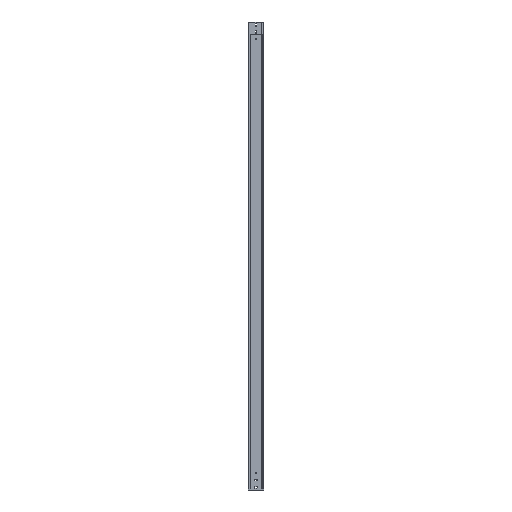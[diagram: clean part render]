
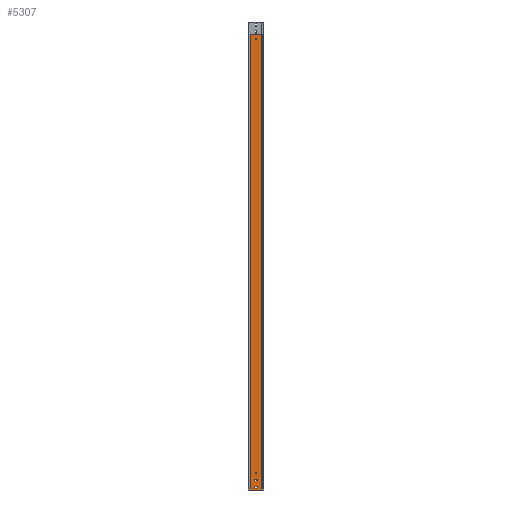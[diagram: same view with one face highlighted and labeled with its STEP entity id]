
A CAD part, left-side view. The second image highlights one B-rep face of the part: STEP entity #5307.
In plain terms, the highlighted planar face has unit normal (-1, 0, 0).
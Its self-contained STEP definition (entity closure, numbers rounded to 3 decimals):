
#45 = DIRECTION ( 'NONE',  ( 0., 0., 1. ) ) ;
#49 = VERTEX_POINT ( 'NONE', #101 ) ;
#81 = VERTEX_POINT ( 'NONE', #157 ) ;
#85 = VECTOR ( 'NONE', #3175, 1000. ) ;
#101 = CARTESIAN_POINT ( 'NONE',  ( 0., 0.5, 0. ) ) ;
#122 = CARTESIAN_POINT ( 'NONE',  ( 0., 48., 30. ) ) ;
#127 = VECTOR ( 'NONE', #3580, 1000. ) ;
#157 = CARTESIAN_POINT ( 'NONE',  ( 0., 53.5, 2852.5 ) ) ;
#178 = CARTESIAN_POINT ( 'NONE',  ( 0., 42.5, 2903. ) ) ;
#218 = CARTESIAN_POINT ( 'NONE',  ( 0., 48., 25.5 ) ) ;
#227 = CARTESIAN_POINT ( 'NONE',  ( 0., 0.5, 0. ) ) ;
#233 = AXIS2_PLACEMENT_3D ( 'NONE', #4039, #2201, #45 ) ;
#256 = CARTESIAN_POINT ( 'NONE',  ( 0., 48., 2814.5 ) ) ;
#263 = VECTOR ( 'NONE', #3428, 1000. ) ;
#265 = CARTESIAN_POINT ( 'NONE',  ( 0., 53.5, 2861.5 ) ) ;
#267 = EDGE_CURVE ( 'NONE', #3141, #1697, #4522, .T. ) ;
#285 = CARTESIAN_POINT ( 'NONE',  ( 0., 7.513, 0. ) ) ;
#302 = CARTESIAN_POINT ( 'NONE',  ( 0., 0., 2920. ) ) ;
#335 = LINE ( 'NONE', #4279, #1507 ) ;
#340 = CARTESIAN_POINT ( 'NONE',  ( 0., 21.54, 0. ) ) ;
#418 = DIRECTION ( 'NONE',  ( 0., 0., 1. ) ) ;
#448 = VECTOR ( 'NONE', #2274, 1000. ) ;
#458 = EDGE_LOOP ( 'NONE', ( #1151, #800 ) ) ;
#488 = ORIENTED_EDGE ( 'NONE', *, *, #4862, .F. ) ;
#498 = CARTESIAN_POINT ( 'NONE',  ( 0., 53.5, 2898.5 ) ) ;
#542 = DIRECTION ( 'NONE',  ( -1., 0., 0. ) ) ;
#572 = DIRECTION ( 'NONE',  ( -1., 0., 0. ) ) ;
#579 = FACE_BOUND ( 'NONE', #4247, .T. ) ;
#600 = CARTESIAN_POINT ( 'NONE',  ( 0., 48., 30. ) ) ;
#611 = AXIS2_PLACEMENT_3D ( 'NONE', #2147, #5320, #1704 ) ;
#693 = CARTESIAN_POINT ( 'NONE',  ( 0., 42.5, 2857. ) ) ;
#707 = DIRECTION ( 'NONE',  ( 0., 0., -1. ) ) ;
#711 = ORIENTED_EDGE ( 'NONE', *, *, #5667, .F. ) ;
#720 = ORIENTED_EDGE ( 'NONE', *, *, #3097, .F. ) ;
#771 = VERTEX_POINT ( 'NONE', #2163 ) ;
#780 = CARTESIAN_POINT ( 'NONE',  ( 0., 48., 2810. ) ) ;
#800 = ORIENTED_EDGE ( 'NONE', *, *, #3084, .F. ) ;
#810 = CARTESIAN_POINT ( 'NONE',  ( 0., 42.5, 2861.5 ) ) ;
#813 = CARTESIAN_POINT ( 'NONE',  ( 0., 0.5, 2920. ) ) ;
#861 = CARTESIAN_POINT ( 'NONE',  ( 0., 53.5, 2861.5 ) ) ;
#933 = VECTOR ( 'NONE', #3888, 1000. ) ;
#1024 = FACE_BOUND ( 'NONE', #5141, .T. ) ;
#1043 = EDGE_CURVE ( 'NONE', #1048, #81, #5086, .T. ) ;
#1048 = VERTEX_POINT ( 'NONE', #265 ) ;
#1058 = VERTEX_POINT ( 'NONE', #2886 ) ;
#1086 = CARTESIAN_POINT ( 'NONE',  ( 0., 42.5, 2898.5 ) ) ;
#1151 = ORIENTED_EDGE ( 'NONE', *, *, #2092, .F. ) ;
#1209 = ORIENTED_EDGE ( 'NONE', *, *, #2483, .T. ) ;
#1356 = CARTESIAN_POINT ( 'NONE',  ( 0., 53.5, 2907.5 ) ) ;
#1372 = CARTESIAN_POINT ( 'NONE',  ( 0., 84.666, 0. ) ) ;
#1444 = EDGE_CURVE ( 'NONE', #1522, #771, #1730, .T. ) ;
#1507 = VECTOR ( 'NONE', #3499, 1000. ) ;
#1522 = VERTEX_POINT ( 'NONE', #813 ) ;
#1570 = DIRECTION ( 'NONE',  ( -1., 0., 0. ) ) ;
#1592 = CARTESIAN_POINT ( 'NONE',  ( 0., 53.5, 2907.5 ) ) ;
#1640 = DIRECTION ( 'NONE',  ( 0., 1., 0. ) ) ;
#1697 = VERTEX_POINT ( 'NONE', #256 ) ;
#1704 = DIRECTION ( 'NONE',  ( 0., 0., -1. ) ) ;
#1730 = LINE ( 'NONE', #302, #5455 ) ;
#1752 = EDGE_CURVE ( 'NONE', #1522, #49, #335, .T. ) ;
#1763 = ORIENTED_EDGE ( 'NONE', *, *, #3523, .F. ) ;
#1898 = EDGE_CURVE ( 'NONE', #5250, #4541, #2632, .T. ) ;
#1950 = CIRCLE ( 'NONE', #4937, 4.5 ) ;
#2035 = CIRCLE ( 'NONE', #3067, 4.5 ) ;
#2092 = EDGE_CURVE ( 'NONE', #4986, #1058, #5470, .T. ) ;
#2147 = CARTESIAN_POINT ( 'NONE',  ( 0., 53.5, 2903. ) ) ;
#2163 = CARTESIAN_POINT ( 'NONE',  ( 0., 84.666, 2920. ) ) ;
#2175 = DIRECTION ( 'NONE',  ( -1., 0., 0. ) ) ;
#2176 = VERTEX_POINT ( 'NONE', #810 ) ;
#2201 = DIRECTION ( 'NONE',  ( -1., 0., 0. ) ) ;
#2212 = CARTESIAN_POINT ( 'NONE',  ( 0., 42.5, 2907.5 ) ) ;
#2274 = DIRECTION ( 'NONE',  ( 0., -1., 0. ) ) ;
#2281 = CIRCLE ( 'NONE', #611, 4.5 ) ;
#2399 = DIRECTION ( 'NONE',  ( -1., 0., 0. ) ) ;
#2437 = EDGE_CURVE ( 'NONE', #4541, #5760, #2281, .T. ) ;
#2483 = EDGE_CURVE ( 'NONE', #771, #4320, #5232, .T. ) ;
#2485 = CARTESIAN_POINT ( 'NONE',  ( 0., 77.652, 0. ) ) ;
#2528 = EDGE_CURVE ( 'NONE', #1697, #3141, #3703, .T. ) ;
#2622 = LINE ( 'NONE', #861, #933 ) ;
#2632 = LINE ( 'NONE', #1356, #127 ) ;
#2694 = DIRECTION ( 'NONE',  ( 0., 0., 1. ) ) ;
#2797 = VERTEX_POINT ( 'NONE', #1086 ) ;
#2798 = ORIENTED_EDGE ( 'NONE', *, *, #2437, .F. ) ;
#2820 = DIRECTION ( 'NONE',  ( 0., 0., 1. ) ) ;
#2884 = CARTESIAN_POINT ( 'NONE',  ( 0., 53.5, 2898.5 ) ) ;
#2886 = CARTESIAN_POINT ( 'NONE',  ( 0., 48., 34.5 ) ) ;
#3067 = AXIS2_PLACEMENT_3D ( 'NONE', #178, #4585, #3313 ) ;
#3084 = EDGE_CURVE ( 'NONE', #1058, #4986, #1950, .T. ) ;
#3097 = EDGE_CURVE ( 'NONE', #2797, #5250, #2035, .T. ) ;
#3141 = VERTEX_POINT ( 'NONE', #3257 ) ;
#3171 = DIRECTION ( 'NONE',  ( -1., 0., 0. ) ) ;
#3175 = DIRECTION ( 'NONE',  ( 0., -1., 0. ) ) ;
#3203 = AXIS2_PLACEMENT_3D ( 'NONE', #4759, #1570, #707 ) ;
#3257 = CARTESIAN_POINT ( 'NONE',  ( 0., 48., 2805.5 ) ) ;
#3269 = EDGE_CURVE ( 'NONE', #49, #4320, #5197, .T. ) ;
#3313 = DIRECTION ( 'NONE',  ( 0., 0., 1. ) ) ;
#3420 = ORIENTED_EDGE ( 'NONE', *, *, #1043, .F. ) ;
#3428 = DIRECTION ( 'NONE',  ( 0., 0., -1. ) ) ;
#3499 = DIRECTION ( 'NONE',  ( 0., 0., -1. ) ) ;
#3523 = EDGE_CURVE ( 'NONE', #2176, #1048, #2622, .T. ) ;
#3580 = DIRECTION ( 'NONE',  ( 0., 1., 0. ) ) ;
#3667 = ORIENTED_EDGE ( 'NONE', *, *, #267, .F. ) ;
#3695 = FACE_BOUND ( 'NONE', #458, .T. ) ;
#3696 = ORIENTED_EDGE ( 'NONE', *, *, #1898, .F. ) ;
#3703 = CIRCLE ( 'NONE', #3894, 4.5 ) ;
#3717 = DIRECTION ( 'NONE',  ( 0., 0., 1. ) ) ;
#3791 = CARTESIAN_POINT ( 'NONE',  ( 0., 42.5, 2852.5 ) ) ;
#3888 = DIRECTION ( 'NONE',  ( 0., 1., 0. ) ) ;
#3894 = AXIS2_PLACEMENT_3D ( 'NONE', #780, #2175, #418 ) ;
#3906 = ORIENTED_EDGE ( 'NONE', *, *, #3269, .F. ) ;
#3996 = VERTEX_POINT ( 'NONE', #3791 ) ;
#4039 = CARTESIAN_POINT ( 'NONE',  ( 0., 48., 2810. ) ) ;
#4133 = ORIENTED_EDGE ( 'NONE', *, *, #2528, .F. ) ;
#4164 = AXIS2_PLACEMENT_3D ( 'NONE', #4896, #3171, #2694 ) ;
#4247 = EDGE_LOOP ( 'NONE', ( #3420, #1763, #488, #4785 ) ) ;
#4279 = CARTESIAN_POINT ( 'NONE',  ( 0., 0.5, 2920. ) ) ;
#4320 = VERTEX_POINT ( 'NONE', #1372 ) ;
#4382 = ORIENTED_EDGE ( 'NONE', *, *, #1444, .T. ) ;
#4426 = AXIS2_PLACEMENT_3D ( 'NONE', #600, #542, #3717 ) ;
#4429 = EDGE_LOOP ( 'NONE', ( #4133, #3667 ) ) ;
#4465 = PLANE ( 'NONE',  #4164 ) ;
#4496 = LINE ( 'NONE', #498, #448 ) ;
#4522 = CIRCLE ( 'NONE', #233, 4.5 ) ;
#4525 = DIRECTION ( 'NONE',  ( 0., 0., 1. ) ) ;
#4529 = CARTESIAN_POINT ( 'NONE',  ( 0., 53.5, 2852.5 ) ) ;
#4541 = VERTEX_POINT ( 'NONE', #1592 ) ;
#4585 = DIRECTION ( 'NONE',  ( -1., 0., 0. ) ) ;
#4691 = CARTESIAN_POINT ( 'NONE',  ( 0., 42.582, 0. ) ) ;
#4720 = EDGE_LOOP ( 'NONE', ( #3906, #4746, #4382, #1209 ) ) ;
#4746 = ORIENTED_EDGE ( 'NONE', *, *, #1752, .F. ) ;
#4759 = CARTESIAN_POINT ( 'NONE',  ( 0., 53.5, 2857. ) ) ;
#4784 = CARTESIAN_POINT ( 'NONE',  ( 0., 63.624, 0. ) ) ;
#4785 = ORIENTED_EDGE ( 'NONE', *, *, #5631, .F. ) ;
#4835 = CARTESIAN_POINT ( 'NONE',  ( 0., 84.666, 2920. ) ) ;
#4862 = EDGE_CURVE ( 'NONE', #3996, #2176, #5502, .T. ) ;
#4896 = CARTESIAN_POINT ( 'NONE',  ( 0., 0., 2920. ) ) ;
#4937 = AXIS2_PLACEMENT_3D ( 'NONE', #122, #2399, #4525 ) ;
#4986 = VERTEX_POINT ( 'NONE', #218 ) ;
#5023 = FACE_BOUND ( 'NONE', #4429, .T. ) ;
#5086 = CIRCLE ( 'NONE', #3203, 4.5 ) ;
#5141 = EDGE_LOOP ( 'NONE', ( #2798, #3696, #720, #711 ) ) ;
#5197 = B_SPLINE_CURVE_WITH_KNOTS ( 'NONE', 3,
 ( #227, #285, #340, #4691, #4784, #2485, #5718 ),
 .UNSPECIFIED., .F., .F.,
 ( 4, 1, 1, 1, 4 ),
 ( 0., 0.25, 0.5, 0.75, 1. ),
 .UNSPECIFIED. ) ;
#5232 = LINE ( 'NONE', #4835, #263 ) ;
#5250 = VERTEX_POINT ( 'NONE', #2212 ) ;
#5307 = ADVANCED_FACE ( 'NONE', ( #3695, #5023, #579, #1024, #5387 ), #4465, .T. ) ;
#5320 = DIRECTION ( 'NONE',  ( -1., 0., 0. ) ) ;
#5387 = FACE_OUTER_BOUND ( 'NONE', #4720, .T. ) ;
#5448 = LINE ( 'NONE', #4529, #85 ) ;
#5455 = VECTOR ( 'NONE', #1640, 1000. ) ;
#5470 = CIRCLE ( 'NONE', #4426, 4.5 ) ;
#5502 = CIRCLE ( 'NONE', #5776, 4.5 ) ;
#5631 = EDGE_CURVE ( 'NONE', #81, #3996, #5448, .T. ) ;
#5667 = EDGE_CURVE ( 'NONE', #5760, #2797, #4496, .T. ) ;
#5718 = CARTESIAN_POINT ( 'NONE',  ( 0., 84.666, 0. ) ) ;
#5760 = VERTEX_POINT ( 'NONE', #2884 ) ;
#5776 = AXIS2_PLACEMENT_3D ( 'NONE', #693, #572, #2820 ) ;
